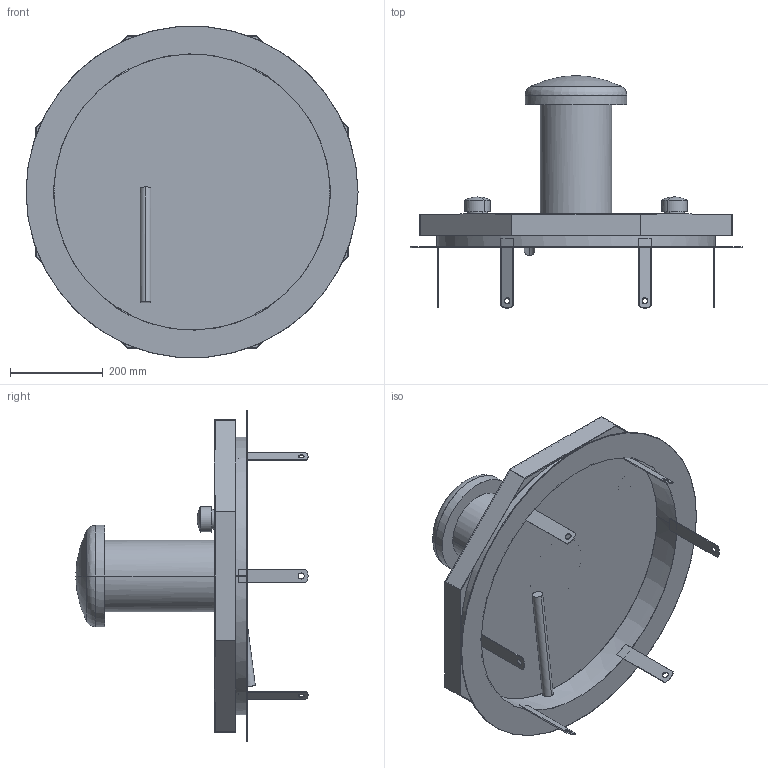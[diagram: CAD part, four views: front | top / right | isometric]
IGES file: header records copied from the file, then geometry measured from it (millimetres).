
Start section:  PTC IGES file: 51337323.igs
Global section: file name: 51337323.igs; native system: Creo Parametric by Parametric Technology Corporation; preprocessor: 2017170; author: wj; organization: Unknown; date: 20190328.081431; units: millimetre
Bounding box: 715 x 500 x 713.14 mm (x, y, z)
Surface area: 1681081.4 mm2 (no closed solid volume)
Topology: 0 solids, 0 shells, 103 faces, 530 edges, 524 vertices
Faces by surface type: bspline 57, revolution 46
